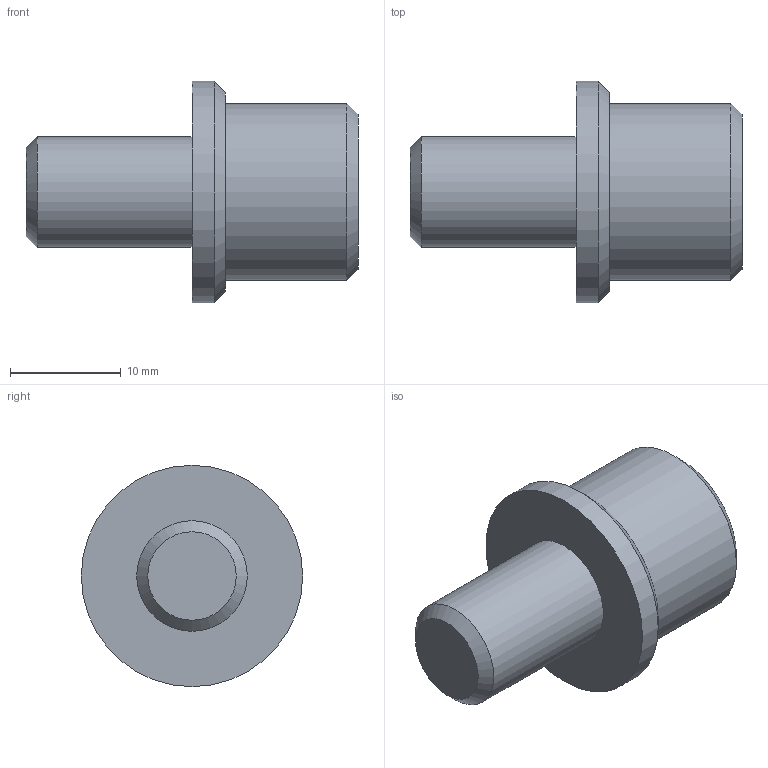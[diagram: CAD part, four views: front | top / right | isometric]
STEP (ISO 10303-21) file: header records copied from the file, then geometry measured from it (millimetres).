
FILE_DESCRIPTION( ( 'Unknown' ), '1' );
FILE_NAME( 'F:/navkite transat/construction/2016/3D ET ASSEMBLAGES/AMI/AMI 26.stp', 'Unknown', ( 'GMA' ), ( 'Unknown' ), 'XStep 1.0', 'Unknown', ' ' );
FILE_SCHEMA( ( 'automotive_design' ) );
Length unit declared in the file: millimetre
Products named in the file (1): 1
Bounding box: 30 x 20 x 20 mm (x, y, z)
Volume: 4464.2 mm3; surface area: 1802.7 mm2
Topology: 1 solids, 1 shells, 10 faces, 17 edges, 11 vertices
Faces by surface type: plane 4, cone 3, cylinder 3
Full cylindrical faces by diameter (mm): 10 x1, 16 x1, 20 x1
Entity records: 290 total; most frequent: DIRECTION 40, CARTESIAN_POINT 29, AXIS2_PLACEMENT_3D 20, EDGE_LOOP 18, ORIENTED_EDGE 18, FACE_OUTER_BOUND 13, STYLED_ITEM 10, PRESENTATION_STYLE_ASSIGNMENT 10
